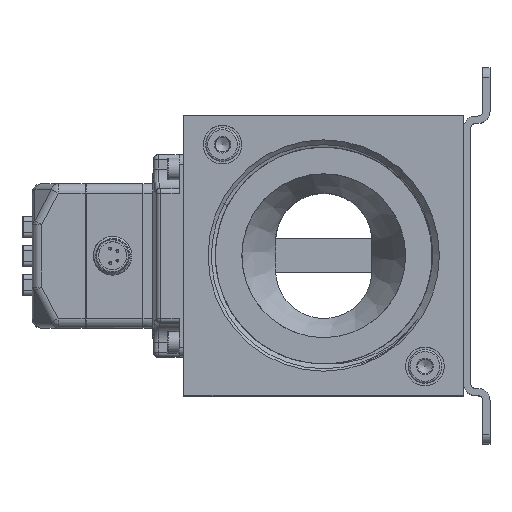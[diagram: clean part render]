
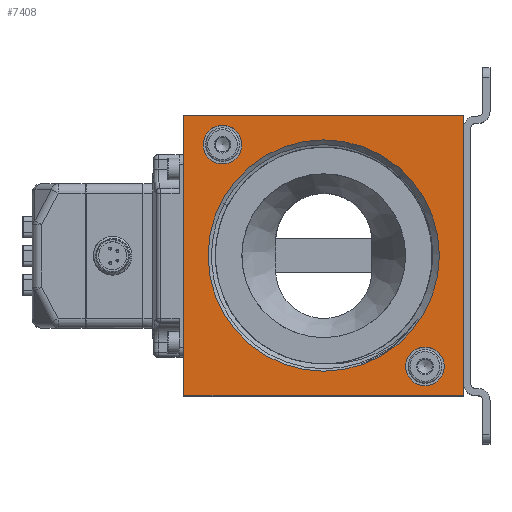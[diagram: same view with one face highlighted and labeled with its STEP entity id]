
A CAD part, top view. The second image highlights one B-rep face of the part: STEP entity #7408.
In plain terms, the highlighted planar face has unit normal (0, 0, 1).
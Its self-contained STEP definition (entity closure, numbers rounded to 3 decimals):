
#1237=LINE('',#37510,#3505);
#1238=LINE('',#37513,#3506);
#1239=LINE('',#37515,#3507);
#1240=LINE('',#37517,#3508);
#3505=VECTOR('',#30060,1.);
#3506=VECTOR('',#30061,1.);
#3507=VECTOR('',#30062,1.);
#3508=VECTOR('',#30063,1.);
#6689=FACE_BOUND('',#11201,.T.);
#6690=FACE_BOUND('',#11202,.T.);
#6691=FACE_BOUND('',#11203,.T.);
#6692=FACE_BOUND('',#11204,.T.);
#7408=ADVANCED_FACE('',(#6689,#6690,#6691,#6692),#8987,.F.);
#8987=PLANE('',#27474);
#11201=EDGE_LOOP('',(#13175,#13176,#13177,#13178));
#11202=EDGE_LOOP('',(#13179));
#11203=EDGE_LOOP('',(#13180));
#11204=EDGE_LOOP('',(#13181));
#13175=ORIENTED_EDGE('',*,*,#22854,.F.);
#13176=ORIENTED_EDGE('',*,*,#22855,.F.);
#13177=ORIENTED_EDGE('',*,*,#22856,.F.);
#13178=ORIENTED_EDGE('',*,*,#22857,.F.);
#13179=ORIENTED_EDGE('',*,*,#22858,.T.);
#13180=ORIENTED_EDGE('',*,*,#22859,.F.);
#13181=ORIENTED_EDGE('',*,*,#22860,.F.);
#20434=VERTEX_POINT('',#37511);
#20435=VERTEX_POINT('',#37512);
#20436=VERTEX_POINT('',#37514);
#20437=VERTEX_POINT('',#37516);
#20438=VERTEX_POINT('',#37519);
#20439=VERTEX_POINT('',#37521);
#20440=VERTEX_POINT('',#37523);
#22854=EDGE_CURVE('',#20434,#20435,#1237,.T.);
#22855=EDGE_CURVE('',#20436,#20434,#1238,.T.);
#22856=EDGE_CURVE('',#20437,#20436,#1239,.T.);
#22857=EDGE_CURVE('',#20435,#20437,#1240,.T.);
#22858=EDGE_CURVE('',#20438,#20438,#26481,.T.);
#22859=EDGE_CURVE('',#20439,#20439,#26482,.T.);
#22860=EDGE_CURVE('',#20440,#20440,#26483,.T.);
#26481=CIRCLE('',#27471,24.);
#26482=CIRCLE('',#27472,4.);
#26483=CIRCLE('',#27473,4.);
#27471=AXIS2_PLACEMENT_3D('',#37518,#30064,#30065);
#27472=AXIS2_PLACEMENT_3D('',#37520,#30066,#30067);
#27473=AXIS2_PLACEMENT_3D('',#37522,#30068,#30069);
#27474=AXIS2_PLACEMENT_3D('',#37524,#30070,#30071);
#30060=DIRECTION('',(-1.,0.,0.));
#30061=DIRECTION('',(0.,-1.,0.));
#30062=DIRECTION('',(1.,0.,0.));
#30063=DIRECTION('',(0.,1.,0.));
#30064=DIRECTION('',(0.,0.,-1.));
#30065=DIRECTION('',(0.,1.,0.));
#30066=DIRECTION('',(0.,0.,1.));
#30067=DIRECTION('',(-1.,0.,0.));
#30068=DIRECTION('',(0.,0.,1.));
#30069=DIRECTION('',(-1.,0.,0.));
#30070=DIRECTION('',(0.,0.,-1.));
#30071=DIRECTION('',(-1.,0.,0.));
#37510=CARTESIAN_POINT('',(29.5,-1.5,14.));
#37511=CARTESIAN_POINT('',(58.5,-1.5,14.));
#37512=CARTESIAN_POINT('',(0.5,-1.5,14.));
#37513=CARTESIAN_POINT('',(58.5,27.5,14.));
#37514=CARTESIAN_POINT('',(58.5,56.5,14.));
#37515=CARTESIAN_POINT('',(29.5,56.5,14.));
#37516=CARTESIAN_POINT('',(0.5,56.5,14.));
#37517=CARTESIAN_POINT('',(0.5,27.5,14.));
#37518=CARTESIAN_POINT('',(29.5,27.5,14.));
#37519=CARTESIAN_POINT('',(29.5,51.5,14.));
#37520=CARTESIAN_POINT('',(50.5,4.5,14.));
#37521=CARTESIAN_POINT('',(46.5,4.5,14.));
#37522=CARTESIAN_POINT('',(8.5,50.5,14.));
#37523=CARTESIAN_POINT('',(4.5,50.5,14.));
#37524=CARTESIAN_POINT('',(29.5,27.5,14.));
